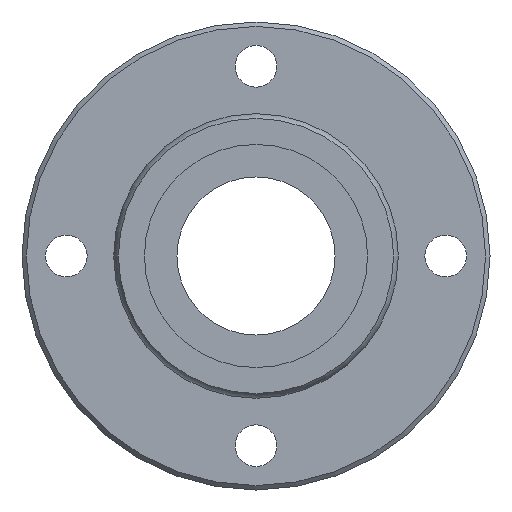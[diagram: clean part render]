
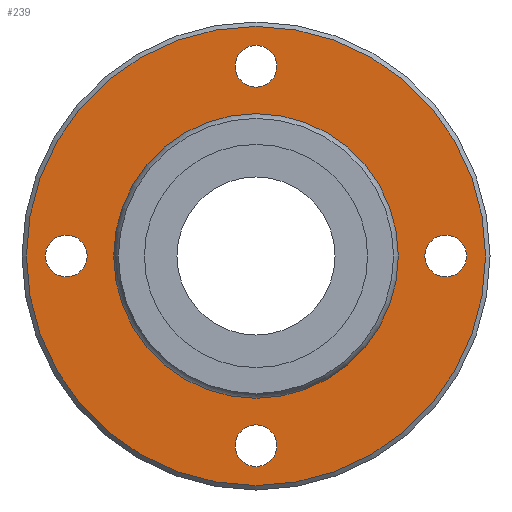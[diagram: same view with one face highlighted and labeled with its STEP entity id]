
A CAD part, left-side view. The second image highlights one B-rep face of the part: STEP entity #239.
In plain terms, the highlighted planar face has unit normal (-1, 0, 0).
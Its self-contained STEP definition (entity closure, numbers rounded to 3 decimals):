
#164=CARTESIAN_POINT('',(55.0,0.,36.3));
#165=VERTEX_POINT('',#164);
#166=CARTESIAN_POINT('',(55.0,0.0,0.0));
#167=DIRECTION('',(1.0,0.0,0.0));
#168=DIRECTION('',(0.0,0.0,-1.0));
#169=AXIS2_PLACEMENT_3D('',#166,#167,#168);
#170=CIRCLE('',#169,36.3);
#171=EDGE_CURVE('',#165,#165,#170,.T.);
#176=CARTESIAN_POINT('',(55.0,0.0,29.563));
#177=DIRECTION('',(-1.0,0.0,0.0));
#178=DIRECTION('',(0.0,0.0,1.0));
#179=AXIS2_PLACEMENT_3D('',#176,#177,#178);
#180=PLANE('',#179);
#181=ORIENTED_EDGE('',*,*,#171,.F.);
#182=EDGE_LOOP('',(#181));
#183=FACE_OUTER_BOUND('',#182,.T.);
#184=CARTESIAN_POINT('',(55.0,0.0,22.127));
#185=VERTEX_POINT('',#184);
#186=CARTESIAN_POINT('',(55.0,0.0,0.0));
#187=DIRECTION('',(-1.0,0.0,0.0));
#188=DIRECTION('',(0.0,0.0,1.0));
#189=AXIS2_PLACEMENT_3D('',#186,#187,#188);
#190=CIRCLE('',#189,22.127);
#191=EDGE_CURVE('',#185,#185,#190,.T.);
#192=ORIENTED_EDGE('',*,*,#191,.F.);
#193=EDGE_LOOP('',(#192));
#194=FACE_BOUND('',#193,.T.);
#195=CARTESIAN_POINT('',(55.0,-33.3,0.));
#196=VERTEX_POINT('',#195);
#197=CARTESIAN_POINT('',(55.0,-30.0,0.));
#198=DIRECTION('',(1.0,0.0,0.0));
#199=DIRECTION('',(0.0,1.0,0.0));
#200=AXIS2_PLACEMENT_3D('',#197,#198,#199);
#201=CIRCLE('',#200,3.3);
#202=EDGE_CURVE('',#196,#196,#201,.T.);
#203=ORIENTED_EDGE('',*,*,#202,.T.);
#204=EDGE_LOOP('',(#203));
#205=FACE_BOUND('',#204,.T.);
#206=CARTESIAN_POINT('',(55.0,26.7,0.));
#207=VERTEX_POINT('',#206);
#208=CARTESIAN_POINT('',(55.0,30.0,0.));
#209=DIRECTION('',(1.0,0.0,0.0));
#210=DIRECTION('',(0.0,1.0,0.0));
#211=AXIS2_PLACEMENT_3D('',#208,#209,#210);
#212=CIRCLE('',#211,3.3);
#213=EDGE_CURVE('',#207,#207,#212,.T.);
#214=ORIENTED_EDGE('',*,*,#213,.T.);
#215=EDGE_LOOP('',(#214));
#216=FACE_BOUND('',#215,.T.);
#217=CARTESIAN_POINT('',(55.0,-3.3,30.0));
#218=VERTEX_POINT('',#217);
#219=CARTESIAN_POINT('',(55.0,0.,30.0));
#220=DIRECTION('',(1.0,0.0,0.0));
#221=DIRECTION('',(0.0,1.0,0.0));
#222=AXIS2_PLACEMENT_3D('',#219,#220,#221);
#223=CIRCLE('',#222,3.3);
#224=EDGE_CURVE('',#218,#218,#223,.T.);
#225=ORIENTED_EDGE('',*,*,#224,.T.);
#226=EDGE_LOOP('',(#225));
#227=FACE_BOUND('',#226,.T.);
#228=CARTESIAN_POINT('',(55.0,-3.3,-30.0));
#229=VERTEX_POINT('',#228);
#230=CARTESIAN_POINT('',(55.0,0.,-30.0));
#231=DIRECTION('',(1.0,0.0,0.0));
#232=DIRECTION('',(0.0,1.0,0.0));
#233=AXIS2_PLACEMENT_3D('',#230,#231,#232);
#234=CIRCLE('',#233,3.3);
#235=EDGE_CURVE('',#229,#229,#234,.T.);
#236=ORIENTED_EDGE('',*,*,#235,.T.);
#237=EDGE_LOOP('',(#236));
#238=FACE_BOUND('',#237,.T.);
#239=ADVANCED_FACE('',(#183,#194,#205,#216,#227,#238),#180,.T.);
